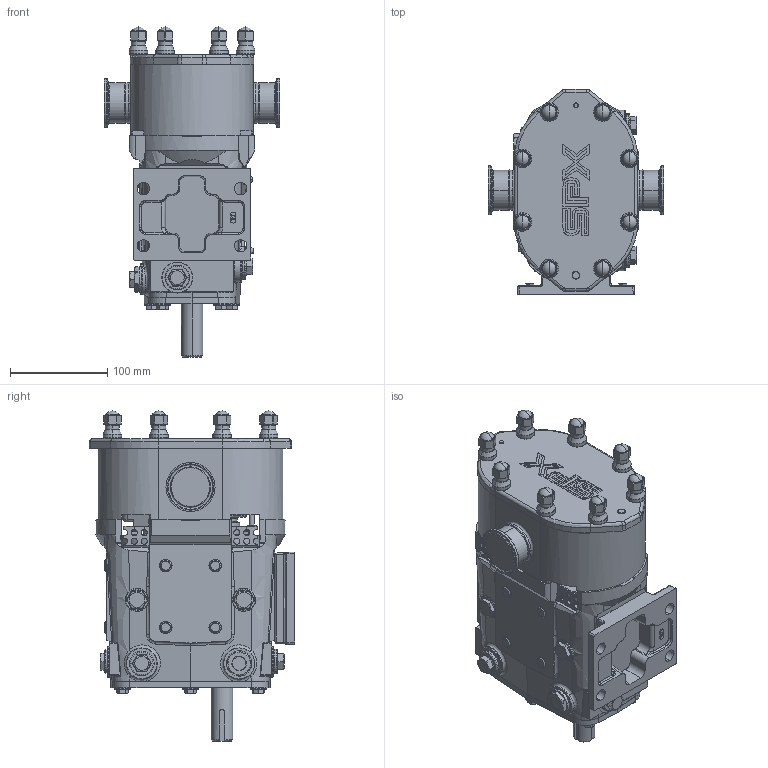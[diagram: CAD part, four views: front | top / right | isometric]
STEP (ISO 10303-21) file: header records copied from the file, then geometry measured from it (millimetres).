
FILE_DESCRIPTION (( 'STEP AP214' ), '1' );
FILE_NAME ('Model 018 Universal 3 Series Lower Drive 1.STEP', '2017-11-17T21:30:56', ( '' ), ( '' ), 'SwSTEP 2.0', 'SolidWorks 2014', '' );
FILE_SCHEMA (( 'AUTOMOTIVE_DESIGN' ));
Length unit declared in the file: inch
Products named in the file (1): Model 018 Universal 3 Series Lower Drive 1
Bounding box: 180.17 x 210.96 x 339.18 mm (x, y, z)
Volume: 4697889.6 mm3; surface area: 314655.3 mm2
Topology: 3 solids, 3 shells, 2122 faces, 5421 edges, 3407 vertices
Faces by surface type: plane 810, cylinder 644, torus 287, cone 236, bspline 123, sphere 22
Entity records: 71517 total; most frequent: CARTESIAN_POINT 20689, ORIENTED_EDGE 10810, DIRECTION 10639, EDGE_CURVE 5405, AXIS2_PLACEMENT_3D 4097, VERTEX_POINT 3407, VECTOR 2445, LINE 2445
